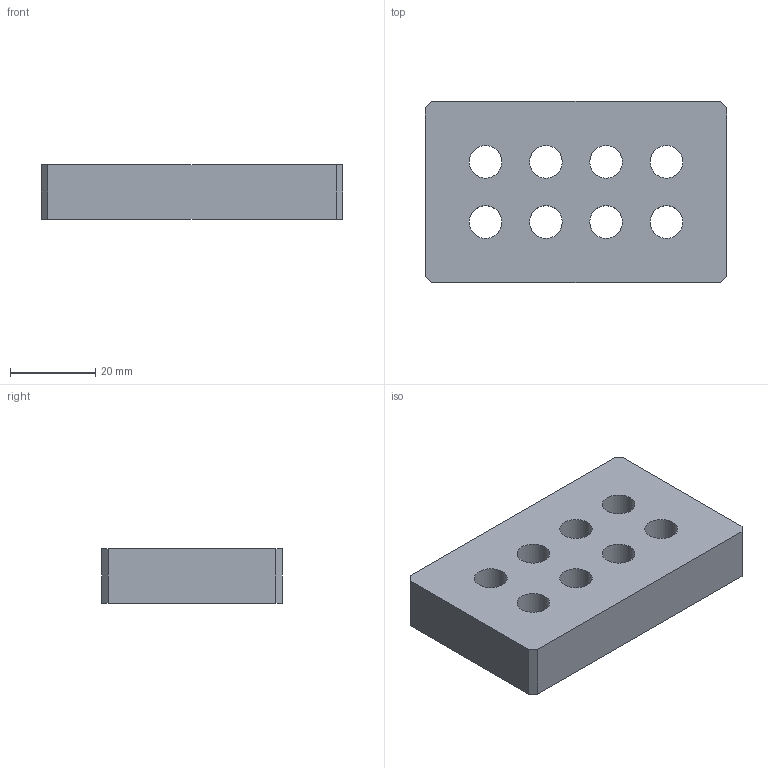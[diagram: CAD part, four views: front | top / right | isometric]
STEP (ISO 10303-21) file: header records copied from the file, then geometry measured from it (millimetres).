
FILE_DESCRIPTION(('Open CASCADE Model'),'2;1');
FILE_NAME('Open CASCADE Shape Model','2026-09-09T00:35:38',('Author'),( 'Open CASCADE'),'Open CASCADE STEP processor 7.7','Open CASCADE 7.7' ,'Unknown');
FILE_SCHEMA(('AUTOMOTIVE_DESIGN { 1 0 10303 214 1 1 1 1 }'));
Length unit declared in the file: millimetre
Products named in the file (1): Open CASCADE STEP translator 7.7 1
Bounding box: 70.92 x 42.55 x 12.88 mm (x, y, z)
Volume: 34022 mm3; surface area: 10649.4 mm2
Topology: 1 solids, 1 shells, 18 faces, 48 edges, 32 vertices
Faces by surface type: plane 10, cylinder 8
Full cylindrical faces by diameter (mm): 7.69 x8
Entity records: 1258 total; most frequent: CARTESIAN_POINT 243, DIRECTION 190, LINE 112, VECTOR 112, ORIENTED_EDGE 96, PCURVE 96, DEFINITIONAL_REPRESENTATION 96, EDGE_CURVE 48
